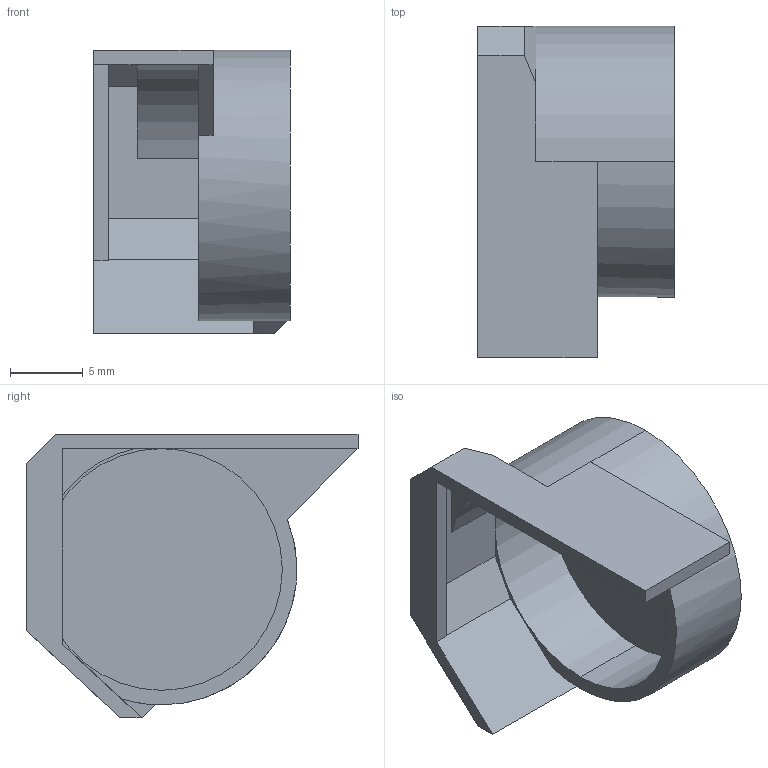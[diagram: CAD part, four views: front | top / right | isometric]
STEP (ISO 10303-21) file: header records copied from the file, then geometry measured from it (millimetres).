
FILE_DESCRIPTION (( 'STEP AP214' ), '1' );
FILE_NAME ('Cover_pedal-potentiometer.STEP', '2020-09-11T08:22:56', ( '' ), ( '' ), 'SwSTEP 2.0', 'SolidWorks 2020', '' );
FILE_SCHEMA (( 'AUTOMOTIVE_DESIGN' ));
Length unit declared in the file: millimetre
Products named in the file (1): Cover_pedal-potentiometer
Bounding box: 13.5 x 22.8 x 19.5 mm (x, y, z)
Volume: 935.4 mm3; surface area: 1967 mm2
Topology: 1 solids, 1 shells, 33 faces, 85 edges, 54 vertices
Faces by surface type: plane 26, cylinder 5, cone 2
Entity records: 1038 total; most frequent: CARTESIAN_POINT 200, ORIENTED_EDGE 170, DIRECTION 162, EDGE_CURVE 85, VECTOR 62, LINE 62, VERTEX_POINT 54, AXIS2_PLACEMENT_3D 50
